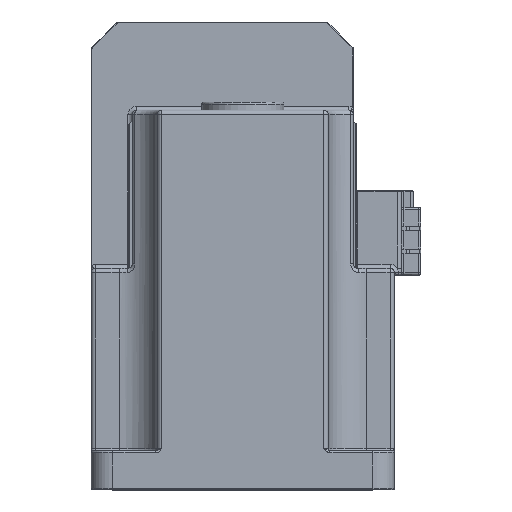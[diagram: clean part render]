
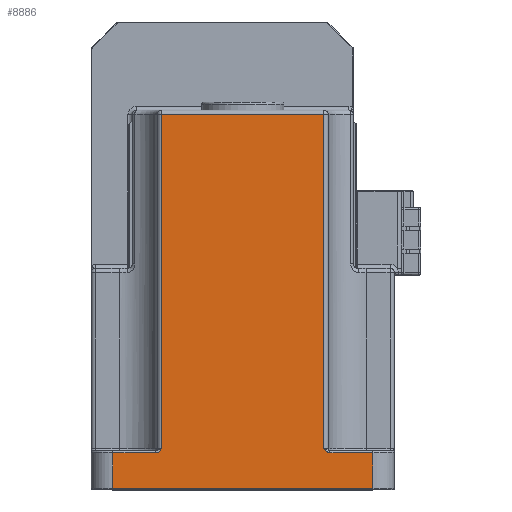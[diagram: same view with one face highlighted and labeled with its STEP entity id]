
A CAD part, top view. The second image highlights one B-rep face of the part: STEP entity #8886.
In plain terms, the highlighted planar face has unit normal (0, 0, 1).
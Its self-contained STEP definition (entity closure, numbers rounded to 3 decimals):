
#375 = ORIENTED_EDGE ( 'NONE', *, *, #30560, .T. ) ;
#951 = ORIENTED_EDGE ( 'NONE', *, *, #49805, .T. ) ;
#2409 = DIRECTION ( 'NONE',  ( 0., 1., 0. ) ) ;
#2727 = CARTESIAN_POINT ( 'NONE',  ( -30., -1.3, 52. ) ) ;
#3747 = LINE ( 'NONE', #19179, #28309 ) ;
#4205 = CARTESIAN_POINT ( 'NONE',  ( -19.7, 85., 52. ) ) ;
#4854 = CARTESIAN_POINT ( 'NONE',  ( -35., 86., 52. ) ) ;
#5499 = CARTESIAN_POINT ( 'NONE',  ( -18.874, 7.654, 52. ) ) ;
#7028 = LINE ( 'NONE', #26893, #38690 ) ;
#8516 = CARTESIAN_POINT ( 'NONE',  ( -30., 6.9, 52. ) ) ;
#8886 = ADVANCED_FACE ( 'NONE', ( #50496 ), #29588, .F. ) ;
#9819 = EDGE_CURVE ( 'NONE', #23663, #38805, #28359, .T. ) ;
#9902 = DIRECTION ( 'NONE',  ( -1., 0., 0. ) ) ;
#10226 = EDGE_CURVE ( 'NONE', #18785, #20516, #3747, .T. ) ;
#10474 = CARTESIAN_POINT ( 'NONE',  ( -35., -1.3, 52. ) ) ;
#11372 = ORIENTED_EDGE ( 'NONE', *, *, #10226, .T. ) ;
#12163 = CARTESIAN_POINT ( 'NONE',  ( -18.7, 7.9, 52. ) ) ;
#12243 = VECTOR ( 'NONE', #53376, 1000. ) ;
#12550 = VECTOR ( 'NONE', #9902, 1000. ) ;
#13302 = ORIENTED_EDGE ( 'NONE', *, *, #37719, .T. ) ;
#13607 = ORIENTED_EDGE ( 'NONE', *, *, #42404, .T. ) ;
#13707 = VERTEX_POINT ( 'NONE', #22580 ) ;
#14503 = VECTOR ( 'NONE', #2409, 1000. ) ;
#15572 = CARTESIAN_POINT ( 'NONE',  ( 20.114, 6.9, 52. ) ) ;
#15738 = CARTESIAN_POINT ( 'NONE',  ( 18.873, 7.655, 52. ) ) ;
#15860 = CARTESIAN_POINT ( 'NONE',  ( 18.7, 86., 52. ) ) ;
#17799 = CARTESIAN_POINT ( 'NONE',  ( -18.7, 7.9, 52. ) ) ;
#18785 = VERTEX_POINT ( 'NONE', #52775 ) ;
#18868 = CARTESIAN_POINT ( 'NONE',  ( -20.114, 6.9, 52. ) ) ;
#19154 = B_SPLINE_CURVE_WITH_KNOTS ( 'NONE', 3,
 ( #17799, #5499, #39793, #31476, #44146, #30936, #35294, #18868 ),
 .UNSPECIFIED., .F., .F.,
 ( 4, 2, 2, 4 ),
 ( 0., 0.001, 0.001, 0.002 ),
 .UNSPECIFIED. ) ;
#19179 = CARTESIAN_POINT ( 'NONE',  ( 18.7, 6.9, 52. ) ) ;
#19644 = LINE ( 'NONE', #43068, #14503 ) ;
#19726 = EDGE_CURVE ( 'NONE', #13707, #18785, #19644, .T. ) ;
#19949 = CARTESIAN_POINT ( 'NONE',  ( -18.7, 86., 52. ) ) ;
#20516 = VERTEX_POINT ( 'NONE', #47892 ) ;
#20529 = EDGE_CURVE ( 'NONE', #20516, #43700, #23517, .T. ) ;
#22408 = VERTEX_POINT ( 'NONE', #50210 ) ;
#22580 = CARTESIAN_POINT ( 'NONE',  ( 30., -1.3, 52. ) ) ;
#22764 = VECTOR ( 'NONE', #45429, 1000. ) ;
#23517 = B_SPLINE_CURVE_WITH_KNOTS ( 'NONE', 3,
 ( #15572, #40249, #32293, #28127, #44606, #48768, #15738, #28318 ),
 .UNSPECIFIED., .F., .F.,
 ( 4, 2, 2, 4 ),
 ( 0., 0., 0.001, 0.002 ),
 .UNSPECIFIED. ) ;
#23663 = VERTEX_POINT ( 'NONE', #40467 ) ;
#23799 = DIRECTION ( 'NONE',  ( 0., 1., 0. ) ) ;
#24713 = LINE ( 'NONE', #4205, #22764 ) ;
#25604 = CARTESIAN_POINT ( 'NONE',  ( -35., 6.9, 52. ) ) ;
#25910 = LINE ( 'NONE', #10474, #47275 ) ;
#25983 = CARTESIAN_POINT ( 'NONE',  ( 18.7, 7.9, 52. ) ) ;
#26016 = ORIENTED_EDGE ( 'NONE', *, *, #19726, .T. ) ;
#26163 = EDGE_CURVE ( 'NONE', #37964, #45937, #52614, .T. ) ;
#26893 = CARTESIAN_POINT ( 'NONE',  ( -30., 86., 52. ) ) ;
#28127 = CARTESIAN_POINT ( 'NONE',  ( 19.532, 7.042, 52. ) ) ;
#28309 = VECTOR ( 'NONE', #48624, 1000. ) ;
#28318 = CARTESIAN_POINT ( 'NONE',  ( 18.7, 7.9, 52. ) ) ;
#28359 = LINE ( 'NONE', #19949, #12243 ) ;
#28591 = ORIENTED_EDGE ( 'NONE', *, *, #26163, .T. ) ;
#29588 = PLANE ( 'NONE',  #46625 ) ;
#30342 = LINE ( 'NONE', #15860, #40656 ) ;
#30560 = EDGE_CURVE ( 'NONE', #45937, #49475, #7028, .T. ) ;
#30936 = CARTESIAN_POINT ( 'NONE',  ( -19.813, 6.931, 52. ) ) ;
#31476 = CARTESIAN_POINT ( 'NONE',  ( -19.402, 7.122, 52. ) ) ;
#32293 = CARTESIAN_POINT ( 'NONE',  ( 19.813, 6.931, 52. ) ) ;
#33762 = DIRECTION ( 'NONE',  ( -1., 0., 0. ) ) ;
#34264 = CARTESIAN_POINT ( 'NONE',  ( -20.114, 6.9, 52. ) ) ;
#35294 = CARTESIAN_POINT ( 'NONE',  ( -19.962, 6.9, 52. ) ) ;
#37134 = ORIENTED_EDGE ( 'NONE', *, *, #9819, .T. ) ;
#37719 = EDGE_CURVE ( 'NONE', #49475, #13707, #25910, .T. ) ;
#37964 = VERTEX_POINT ( 'NONE', #34264 ) ;
#38299 = ORIENTED_EDGE ( 'NONE', *, *, #20529, .T. ) ;
#38690 = VECTOR ( 'NONE', #38817, 1000. ) ;
#38805 = VERTEX_POINT ( 'NONE', #12163 ) ;
#38817 = DIRECTION ( 'NONE',  ( 0., -1., 0. ) ) ;
#39330 = DIRECTION ( 'NONE',  ( 1., 0., 0. ) ) ;
#39793 = CARTESIAN_POINT ( 'NONE',  ( -19.052, 7.407, 52. ) ) ;
#40249 = CARTESIAN_POINT ( 'NONE',  ( 19.962, 6.9, 52. ) ) ;
#40467 = CARTESIAN_POINT ( 'NONE',  ( -18.7, 85., 52. ) ) ;
#40656 = VECTOR ( 'NONE', #23799, 1000. ) ;
#42404 = EDGE_CURVE ( 'NONE', #38805, #37964, #19154, .T. ) ;
#43068 = CARTESIAN_POINT ( 'NONE',  ( 30., 86., 52. ) ) ;
#43700 = VERTEX_POINT ( 'NONE', #25983 ) ;
#44146 = CARTESIAN_POINT ( 'NONE',  ( -19.532, 7.042, 52. ) ) ;
#44606 = CARTESIAN_POINT ( 'NONE',  ( 19.402, 7.122, 52. ) ) ;
#45429 = DIRECTION ( 'NONE',  ( -1., 0., 0. ) ) ;
#45937 = VERTEX_POINT ( 'NONE', #8516 ) ;
#46500 = EDGE_CURVE ( 'NONE', #43700, #22408, #30342, .T. ) ;
#46625 = AXIS2_PLACEMENT_3D ( 'NONE', #4854, #50591, #33762 ) ;
#47275 = VECTOR ( 'NONE', #39330, 1000. ) ;
#47892 = CARTESIAN_POINT ( 'NONE',  ( 20.114, 6.9, 52. ) ) ;
#47949 = ORIENTED_EDGE ( 'NONE', *, *, #46500, .T. ) ;
#48624 = DIRECTION ( 'NONE',  ( -1., 0., 0. ) ) ;
#48768 = CARTESIAN_POINT ( 'NONE',  ( 19.052, 7.407, 52. ) ) ;
#49475 = VERTEX_POINT ( 'NONE', #2727 ) ;
#49553 = EDGE_LOOP ( 'NONE', ( #375, #13302, #26016, #11372, #38299, #47949, #951, #37134, #13607, #28591 ) ) ;
#49805 = EDGE_CURVE ( 'NONE', #22408, #23663, #24713, .T. ) ;
#50210 = CARTESIAN_POINT ( 'NONE',  ( 18.7, 85., 52. ) ) ;
#50496 = FACE_OUTER_BOUND ( 'NONE', #49553, .T. ) ;
#50591 = DIRECTION ( 'NONE',  ( 0., 0., -1. ) ) ;
#52614 = LINE ( 'NONE', #25604, #12550 ) ;
#52775 = CARTESIAN_POINT ( 'NONE',  ( 30., 6.9, 52. ) ) ;
#53376 = DIRECTION ( 'NONE',  ( 0., -1., 0. ) ) ;
